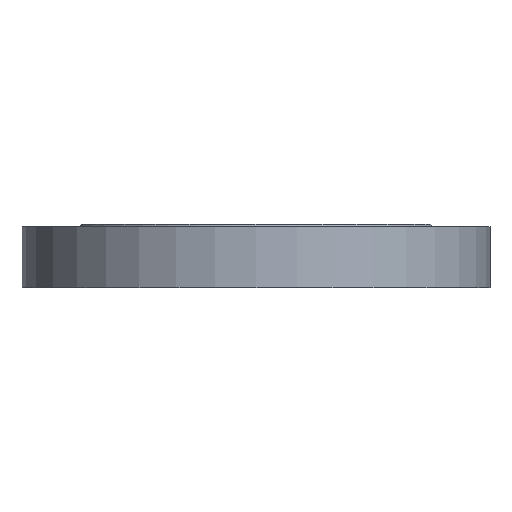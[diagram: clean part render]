
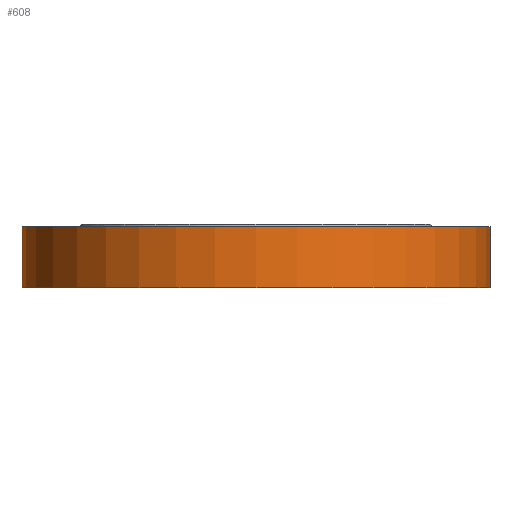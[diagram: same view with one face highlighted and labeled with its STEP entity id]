
A CAD part, front view. The second image highlights one B-rep face of the part: STEP entity #608.
In plain terms, the highlighted cylindrical face has radius 65 mm (diameter 130 mm), a full revolution.
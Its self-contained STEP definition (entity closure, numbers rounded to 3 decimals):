
#608 = ADVANCED_FACE('',(#609),#623,.T.);
#609 = FACE_BOUND('',#610,.F.);
#610 = EDGE_LOOP('',(#611,#641,#668,#669));
#611 = ORIENTED_EDGE('',*,*,#612,.T.);
#612 = EDGE_CURVE('',#613,#615,#617,.T.);
#613 = VERTEX_POINT('',#614);
#614 = CARTESIAN_POINT('',(65.,0.,0.));
#615 = VERTEX_POINT('',#616);
#616 = CARTESIAN_POINT('',(65.,0.,17.));
#617 = SEAM_CURVE('',#618,(#622,#634),.PCURVE_S1.);
#618 = LINE('',#619,#620);
#619 = CARTESIAN_POINT('',(65.,0.,0.));
#620 = VECTOR('',#621,1.);
#621 = DIRECTION('',(0.,0.,1.));
#622 = PCURVE('',#623,#628);
#623 = CYLINDRICAL_SURFACE('',#624,65.);
#624 = AXIS2_PLACEMENT_3D('',#625,#626,#627);
#625 = CARTESIAN_POINT('',(0.,0.,0.));
#626 = DIRECTION('',(-0.,-0.,-1.));
#627 = DIRECTION('',(1.,0.,0.));
#628 = DEFINITIONAL_REPRESENTATION('',(#629),#633);
#629 = LINE('',#630,#631);
#630 = CARTESIAN_POINT('',(-0.,0.));
#631 = VECTOR('',#632,1.);
#632 = DIRECTION('',(-0.,-1.));
#633 = ( GEOMETRIC_REPRESENTATION_CONTEXT(2) 
PARAMETRIC_REPRESENTATION_CONTEXT() REPRESENTATION_CONTEXT('2D SPACE',''
  ) );
#634 = PCURVE('',#623,#635);
#635 = DEFINITIONAL_REPRESENTATION('',(#636),#640);
#636 = LINE('',#637,#638);
#637 = CARTESIAN_POINT('',(-6.283,0.));
#638 = VECTOR('',#639,1.);
#639 = DIRECTION('',(-0.,-1.));
#640 = ( GEOMETRIC_REPRESENTATION_CONTEXT(2) 
PARAMETRIC_REPRESENTATION_CONTEXT() REPRESENTATION_CONTEXT('2D SPACE',''
  ) );
#641 = ORIENTED_EDGE('',*,*,#642,.T.);
#642 = EDGE_CURVE('',#615,#615,#643,.T.);
#643 = SURFACE_CURVE('',#644,(#649,#656),.PCURVE_S1.);
#644 = CIRCLE('',#645,65.);
#645 = AXIS2_PLACEMENT_3D('',#646,#647,#648);
#646 = CARTESIAN_POINT('',(0.,0.,17.));
#647 = DIRECTION('',(0.,0.,1.));
#648 = DIRECTION('',(1.,0.,0.));
#649 = PCURVE('',#623,#650);
#650 = DEFINITIONAL_REPRESENTATION('',(#651),#655);
#651 = LINE('',#652,#653);
#652 = CARTESIAN_POINT('',(-0.,-17.));
#653 = VECTOR('',#654,1.);
#654 = DIRECTION('',(-1.,0.));
#655 = ( GEOMETRIC_REPRESENTATION_CONTEXT(2) 
PARAMETRIC_REPRESENTATION_CONTEXT() REPRESENTATION_CONTEXT('2D SPACE',''
  ) );
#656 = PCURVE('',#657,#662);
#657 = PLANE('',#658);
#658 = AXIS2_PLACEMENT_3D('',#659,#660,#661);
#659 = CARTESIAN_POINT('',(0.,0.,17.)
  );
#660 = DIRECTION('',(0.,0.,1.));
#661 = DIRECTION('',(1.,0.,0.));
#662 = DEFINITIONAL_REPRESENTATION('',(#663),#667);
#663 = CIRCLE('',#664,65.);
#664 = AXIS2_PLACEMENT_2D('',#665,#666);
#665 = CARTESIAN_POINT('',(0.,0.));
#666 = DIRECTION('',(1.,0.));
#667 = ( GEOMETRIC_REPRESENTATION_CONTEXT(2) 
PARAMETRIC_REPRESENTATION_CONTEXT() REPRESENTATION_CONTEXT('2D SPACE',''
  ) );
#668 = ORIENTED_EDGE('',*,*,#612,.F.);
#669 = ORIENTED_EDGE('',*,*,#670,.F.);
#670 = EDGE_CURVE('',#613,#613,#671,.T.);
#671 = SURFACE_CURVE('',#672,(#677,#684),.PCURVE_S1.);
#672 = CIRCLE('',#673,65.);
#673 = AXIS2_PLACEMENT_3D('',#674,#675,#676);
#674 = CARTESIAN_POINT('',(0.,0.,0.));
#675 = DIRECTION('',(0.,0.,1.));
#676 = DIRECTION('',(1.,0.,0.));
#677 = PCURVE('',#623,#678);
#678 = DEFINITIONAL_REPRESENTATION('',(#679),#683);
#679 = LINE('',#680,#681);
#680 = CARTESIAN_POINT('',(-0.,0.));
#681 = VECTOR('',#682,1.);
#682 = DIRECTION('',(-1.,0.));
#683 = ( GEOMETRIC_REPRESENTATION_CONTEXT(2) 
PARAMETRIC_REPRESENTATION_CONTEXT() REPRESENTATION_CONTEXT('2D SPACE',''
  ) );
#684 = PCURVE('',#685,#690);
#685 = PLANE('',#686);
#686 = AXIS2_PLACEMENT_3D('',#687,#688,#689);
#687 = CARTESIAN_POINT('',(0.,0.,0.));
#688 = DIRECTION('',(0.,0.,1.));
#689 = DIRECTION('',(1.,0.,0.));
#690 = DEFINITIONAL_REPRESENTATION('',(#691),#695);
#691 = CIRCLE('',#692,65.);
#692 = AXIS2_PLACEMENT_2D('',#693,#694);
#693 = CARTESIAN_POINT('',(0.,0.));
#694 = DIRECTION('',(1.,0.));
#695 = ( GEOMETRIC_REPRESENTATION_CONTEXT(2) 
PARAMETRIC_REPRESENTATION_CONTEXT() REPRESENTATION_CONTEXT('2D SPACE',''
  ) );
